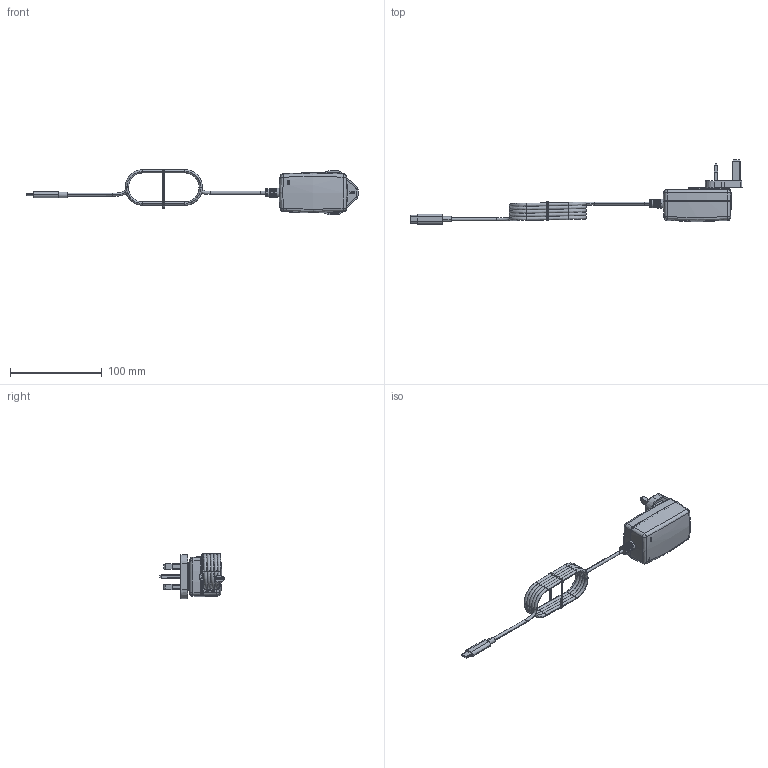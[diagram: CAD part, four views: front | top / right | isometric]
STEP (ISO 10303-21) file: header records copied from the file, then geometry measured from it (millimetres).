
FILE_DESCRIPTION((''),'2;1');
FILE_NAME('GTM96180-WALL-PLUG_ASM','2022-09-15T14:19:24',('rd05'),(''),'CREO PARAMETRIC BY PTC INC, 2018050','CREO PARAMETRIC BY PTC INC, 2018050','');
FILE_SCHEMA(('CONFIG_CONTROL_DESIGN','GEOMETRIC_VALIDATION_PROPERTIES_MIM'));
Length unit declared in the file: millimetre
Products named in the file (20): BTM-CASE; 41052-PCB; NEW-PIN-RIGHT; NEW-PIN-LEFT; COVER; MANIFOLD_SOLID_BREP_3919; SR02; TOP-CASE_8_4; LENS_17_5; ASM0001_ASM_2_ASM_11_ASM; LENS-STANDARD; GTM96180_20190702_ASM; PCB_2; WIRE; TYPEC; Q-UK-PLASTIC; Q-UK-PIN-LEFT; Q-UK-RIGHT-PIN; Q-UK_ASM; GTM96180-WALL-PLUG_ASM
Assembly tree (19 placements, depth 4):
  GTM96180-WALL-PLUG_ASM
    BTM-CASE
    41052-PCB
    NEW-PIN-RIGHT
    NEW-PIN-LEFT
    COVER
    MANIFOLD_SOLID_BREP_3919
    SR02
    GTM96180_20190702_ASM
      ASM0001_ASM_2_ASM_11_ASM
        TOP-CASE_8_4
        LENS_17_5
      LENS-STANDARD
    PCB_2
    WIRE
    TYPEC
    Q-UK_ASM
      Q-UK-PLASTIC
      Q-UK-PIN-LEFT
      Q-UK-RIGHT-PIN
Bounding box: 360.91 x 70.11 x 49.68 mm (x, y, z)
Volume: 55805.1 mm3; surface area: 69057.2 mm2
Topology: 17 solids, 18 shells, 2332 faces, 5875 edges, 3629 vertices
Faces by surface type: plane 1145, cylinder 578, cone 213, bspline 162, torus 145, sphere 75, extrusion 14
Entity records: 89036 total; most frequent: CARTESIAN_POINT 28228, ORIENTED_EDGE 11678, DIRECTION 11261, EDGE_CURVE 5847, AXIS2_PLACEMENT_3D 3893, VERTEX_POINT 3629, VECTOR 3475, LINE 3461
